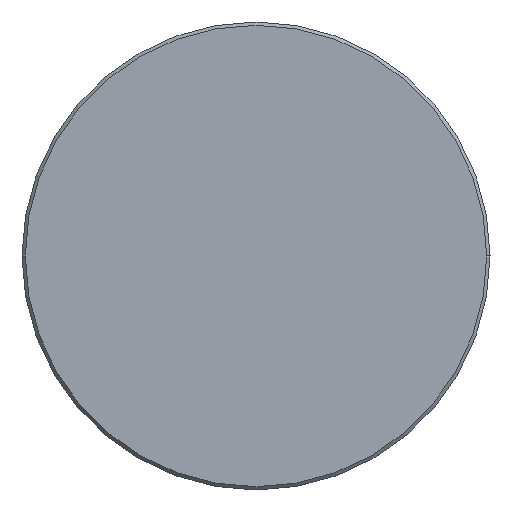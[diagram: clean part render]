
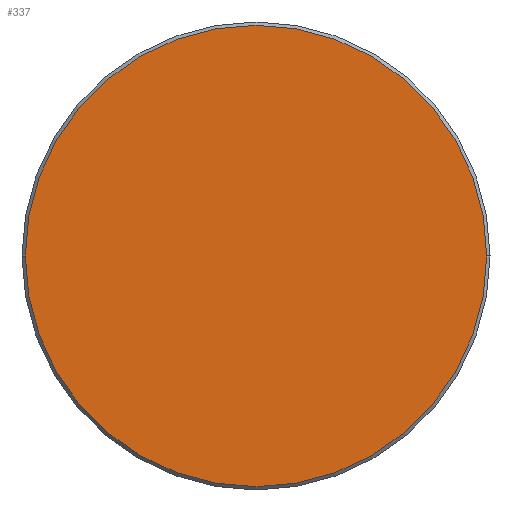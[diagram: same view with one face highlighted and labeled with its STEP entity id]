
A CAD part, left-side view. The second image highlights one B-rep face of the part: STEP entity #337.
In plain terms, the highlighted planar face has unit normal (-1, 0, 0).
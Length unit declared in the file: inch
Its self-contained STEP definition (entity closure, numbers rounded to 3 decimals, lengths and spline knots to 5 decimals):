
#29 = AXIS2_PLACEMENT_3D ( 'NONE', #76, #311, #219 ) ;
#44 = CARTESIAN_POINT ( 'NONE',  ( 0., 0.27725, 0. ) ) ;
#56 = EDGE_LOOP ( 'NONE', ( #212, #321 ) ) ;
#76 = CARTESIAN_POINT ( 'NONE',  ( 0., 0., 0. ) ) ;
#111 = VERTEX_POINT ( 'NONE', #268 ) ;
#133 = CARTESIAN_POINT ( 'NONE',  ( 0., 0., 0. ) ) ;
#160 = PLANE ( 'NONE',  #29 ) ;
#172 = FACE_OUTER_BOUND ( 'NONE', #56, .T. ) ;
#188 = DIRECTION ( 'NONE',  ( -1., 0., 0. ) ) ;
#192 = DIRECTION ( 'NONE',  ( 0., -1., 0. ) ) ;
#212 = ORIENTED_EDGE ( 'NONE', *, *, #307, .T. ) ;
#219 = DIRECTION ( 'NONE',  ( 0., -1., 0. ) ) ;
#223 = CARTESIAN_POINT ( 'NONE',  ( 0., 0., 0. ) ) ;
#253 = DIRECTION ( 'NONE',  ( 0., -1., 0. ) ) ;
#255 = CIRCLE ( 'NONE', #284, 0.27725 ) ;
#268 = CARTESIAN_POINT ( 'NONE',  ( 0., -0.27725, 0. ) ) ;
#284 = AXIS2_PLACEMENT_3D ( 'NONE', #133, #305, #192 ) ;
#297 = AXIS2_PLACEMENT_3D ( 'NONE', #223, #188, #253 ) ;
#302 = EDGE_CURVE ( 'NONE', #111, #345, #350, .T. ) ;
#305 = DIRECTION ( 'NONE',  ( -1., 0., 0. ) ) ;
#307 = EDGE_CURVE ( 'NONE', #345, #111, #255, .T. ) ;
#311 = DIRECTION ( 'NONE',  ( -1., 0., 0. ) ) ;
#321 = ORIENTED_EDGE ( 'NONE', *, *, #302, .T. ) ;
#337 = ADVANCED_FACE ( 'NONE', ( #172 ), #160, .T. ) ;
#345 = VERTEX_POINT ( 'NONE', #44 ) ;
#350 = CIRCLE ( 'NONE', #297, 0.27725 ) ;
